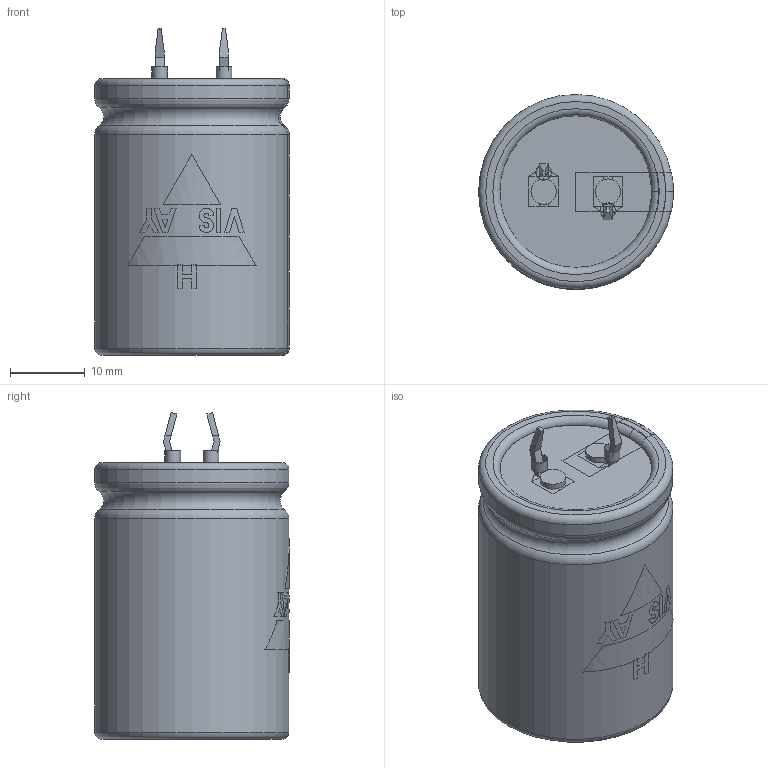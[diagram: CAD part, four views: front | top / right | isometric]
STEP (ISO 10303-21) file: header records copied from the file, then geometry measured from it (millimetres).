
FILE_DESCRIPTION(('FreeCAD Model'),'2;1');
FILE_NAME( 'C:/Users/Gebruiker/Documents/FreeCAD/SnapIn_25x35_2pin_5.8.step', '2020-11-12T20:05:35',('Author'),(''), 'Open CASCADE STEP processor 6.8','FreeCAD','Unknown');
FILE_SCHEMA(('AUTOMOTIVE_DESIGN_CC2 { 1 2 10303 214 -1 1 5 4 }'));
Length unit declared in the file: millimetre
Products named in the file (9): ASSEMBLY; TerminalMin; TerminalPlus; PCBHoles; Disc; BottomInsulation; Can3D; InkMinusBar; InkLogo
Assembly tree (8 placements, depth 2):
  ASSEMBLY
    TerminalMin
    TerminalPlus
    PCBHoles
    Disc
    BottomInsulation
    Can3D
    InkMinusBar
    InkLogo
Bounding box: 26.05 x 26.05 x 43.75 mm (x, y, z)
Volume: 22152.1 mm3; surface area: 9814.9 mm2
Topology: 15 solids, 15 shells, 196 faces, 489 edges, 318 vertices
Faces by surface type: plane 147, cylinder 31, torus 18
Full cylindrical faces by diameter (mm): 2 x2, 2.1 x2, 3.4 x2, 20.3 x1, 20.8 x2, 26 x2
Entity records: 20446 total; most frequent: CARTESIAN_POINT 9526, DIRECTION 1709, ORIENTED_EDGE 978, PCURVE 978, DEFINITIONAL_REPRESENTATION 978, LINE 957, VECTOR 957, EDGE_CURVE 489
